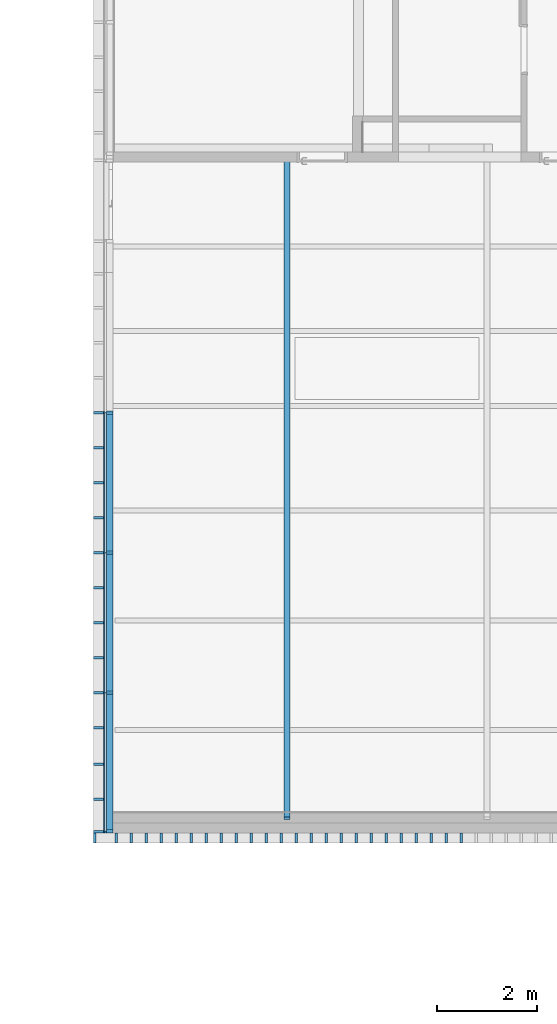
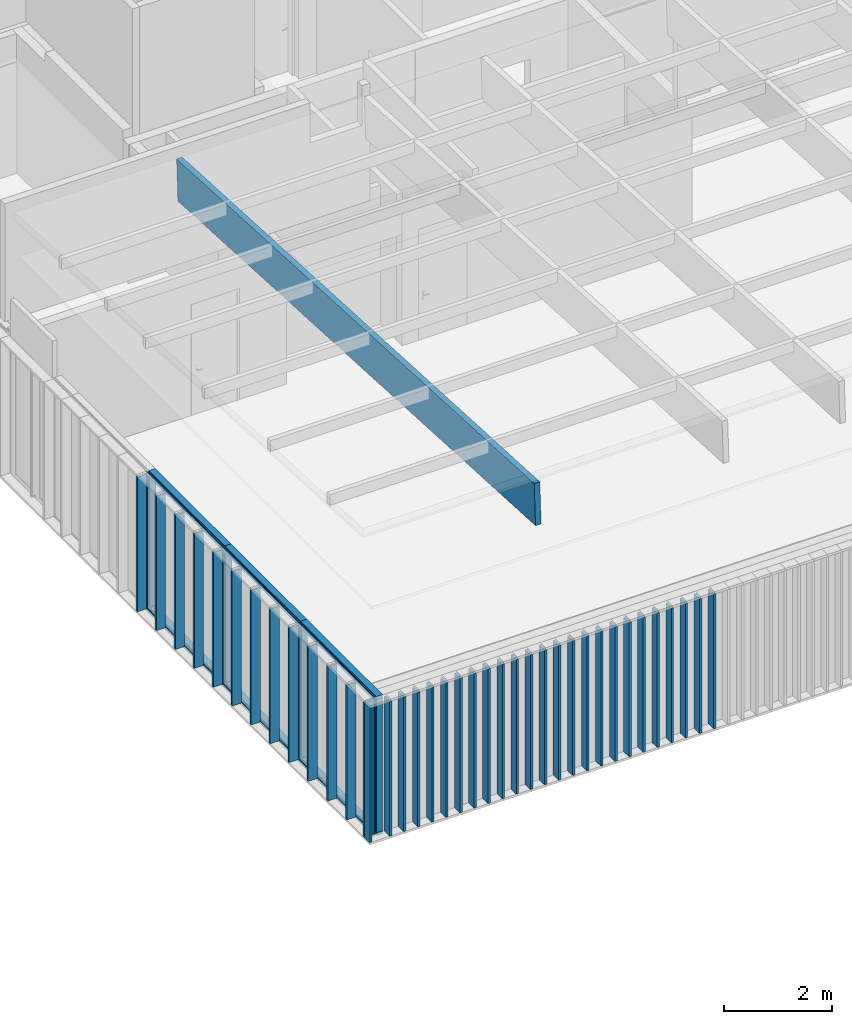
# One storey, part 3 of 240: 48 members, 1 beam, 3 elements without a shape of their own.
"""IFC2X3 building model written with IfcOpenShell, lengths in centimetres."""

from ifc_helpers import new_model, entity, si_unit, converted_unit, derived_unit, direction, frame, frame_2d, origin, origin_2d_with_axis, place, context, subcontext, project, spatial, polyline, rectangle, outline, extrude, source, transform, mapped, material, type_object, type_shapes, element, aggregate, save


model = new_model("IFC2X3")

# Units and contexts
model_context = context("Model", 3, precision=0.001, world=origin(), true_north=direction((6.12303176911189e-17, 1.0)))
body_context = subcontext(model_context, "Body", "Model", "MODEL_VIEW")
ifc_project = project(units=[si_unit("LENGTHUNIT", "METRE", prefix="CENTI"), si_unit("AREAUNIT", "SQUARE_METRE"), si_unit("VOLUMEUNIT", "CUBIC_METRE"), converted_unit("PLANEANGLEUNIT", "DEGREE", entity("IfcRatioMeasure", 0.0174532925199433), si_unit("PLANEANGLEUNIT", "RADIAN"), dimensions=[0, 0, 0, 0, 0, 0, 0]), si_unit("MASSUNIT", "GRAM", prefix="KILO"), derived_unit("MASSDENSITYUNIT", [(si_unit("MASSUNIT", "GRAM", prefix="KILO"), 1), (si_unit("LENGTHUNIT", "METRE"), -3)]), si_unit("TIMEUNIT", "SECOND"), si_unit("FREQUENCYUNIT", "HERTZ"), si_unit("THERMODYNAMICTEMPERATUREUNIT", "DEGREE_CELSIUS"), derived_unit("THERMALTRANSMITTANCEUNIT", [(si_unit("MASSUNIT", "GRAM", prefix="KILO"), 1), (si_unit("THERMODYNAMICTEMPERATUREUNIT", "KELVIN"), -1), (si_unit("TIMEUNIT", "SECOND"), -3)]), derived_unit("VOLUMETRICFLOWRATEUNIT", [(si_unit("LENGTHUNIT", "METRE"), 3), (si_unit("TIMEUNIT", "SECOND"), -1)]), si_unit("ELECTRICCURRENTUNIT", "AMPERE"), si_unit("ELECTRICVOLTAGEUNIT", "VOLT"), si_unit("POWERUNIT", "WATT"), si_unit("FORCEUNIT", "NEWTON", prefix="KILO"), si_unit("ILLUMINANCEUNIT", "LUX"), si_unit("LUMINOUSFLUXUNIT", "LUMEN"), si_unit("LUMINOUSINTENSITYUNIT", "CANDELA"), derived_unit("USERDEFINED", [(si_unit("MASSUNIT", "GRAM", prefix="KILO"), -1), (si_unit("LENGTHUNIT", "METRE"), -2), (si_unit("TIMEUNIT", "SECOND"), 3), (si_unit("LUMINOUSFLUXUNIT", "LUMEN"), 1)]), derived_unit("LINEARVELOCITYUNIT", [(si_unit("LENGTHUNIT", "METRE"), 1), (si_unit("TIMEUNIT", "SECOND"), -1)]), si_unit("PRESSUREUNIT", "PASCAL"), derived_unit("USERDEFINED", [(si_unit("LENGTHUNIT", "METRE"), -2), (si_unit("MASSUNIT", "GRAM", prefix="KILO"), 1), (si_unit("TIMEUNIT", "SECOND"), -2)])], contexts=[model_context])

# Site, building, storey
site_placement = place(None, frame((-2781.94577612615, 7442.24238424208, 0.0)))
site = spatial("IfcSite", under=ifc_project, at=site_placement, Name="Default", CompositionType="ELEMENT")
building_placement = place(site_placement, origin())
building = spatial("IfcBuilding", under=site, at=building_placement, CompositionType="ELEMENT")
storey_placement = place(building_placement, origin())
storey = spatial("IfcBuildingStorey", under=building, at=storey_placement, Name="N00 - COO", CompositionType="ELEMENT", Elevation=0.0)

# Curtain wall, members
curtain_wall_type_1 = type_object("IfcCurtainWallType", Name="Mur-rideau:07 - mur rideau trame 280 cm", PredefinedType="NOTDEFINED")
curtain_wall_1_placement = place(building_placement, origin())
curtain_wall_1 = element("IfcCurtainWall", 1, at=curtain_wall_1_placement, inside=storey, type_object=curtain_wall_type_1, Name="Mur-rideau:07 - mur rideau trame 280 cm", ObjectType="Mur-rideau:07 - mur rideau trame 280 cm")
ifc_material_1 = material(Name="Aluminium")
member_type_1 = type_object("IfcMemberType", Name="150 x 25mm Détails", PredefinedType="MEMBER")
shared_shape_1 = source(origin(), body_context, "Body", "SweptSolid", [
    extrude(outline(polyline([(-13.3333333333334, -3.24999999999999), (0.166666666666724, -3.24999999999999), (0.166666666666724, -0.868749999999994), (3.66666666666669, -0.868749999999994), (3.66666666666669, -3.25), (5.6666666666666, -3.25), (5.6666666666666, 3.24999999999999), (3.66666666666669, 3.24999999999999), (3.66666666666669, 0.86874999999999), (0.166666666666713, 0.86874999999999), (0.166666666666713, 3.25000000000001), (-13.3333333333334, 3.25000000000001), (-13.3333333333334, -3.24999999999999)])), frame((-3.24999999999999, 1.96666666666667, -300.0), z_axis=(0.0, 0.0, 1.0), x_axis=(0.0, -1.0, 0.0)), (0.0, 0.0, 1.0), 300.000000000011),
])
type_shapes(member_type_1, [shared_shape_1])
member_1_placement = place(building_placement, frame((-11860.6505746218, -5566.50173441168, 306.500000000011), z_axis=(0.0, 0.0, 1.0), x_axis=(0.0, -1.0, 0.0)))
member_1 = element("IfcMember", 2, at=member_1_placement, type_object=member_type_1, material=ifc_material_1, Name="Meneau rectangulaire:150 x 25mm Détails", ObjectType="Meneau rectangulaire:150 x 25mm Détails", context=body_context, shape_type="MappedRepresentation", body=[
    mapped(shared_shape_1, transform((0.0, 0.0, 0.0), scale=1.0)),
])
member_type_2 = type_object("IfcMemberType", Name="150 x 25mm Détails", PredefinedType="MEMBER")
shared_shape_2 = source(origin(), body_context, "Body", "SweptSolid", [
    extrude(outline(polyline([(-13.3333333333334, -3.25000000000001), (0.166666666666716, -3.25000000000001), (0.166666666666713, -0.86874999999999), (3.66666666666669, -0.86874999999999), (3.66666666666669, -3.24999999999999), (5.66666666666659, -3.24999999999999), (5.66666666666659, 3.25), (3.66666666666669, 3.25), (3.66666666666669, 0.868749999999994), (0.166666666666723, 0.868749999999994), (0.166666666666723, 3.25000000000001), (-13.3333333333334, 3.24999999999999), (-13.3333333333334, -3.25000000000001)])), frame((0.0, 1.96666666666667, -300.0), z_axis=(0.0, 0.0, 1.0), x_axis=(0.0, -1.0, 0.0)), (0.0, 0.0, 1.0), 300.000000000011),
])
type_shapes(member_type_2, [shared_shape_2])
member_2_placement = place(building_placement, frame((-11860.6505746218, -5286.5017343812, 6.49999999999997), z_axis=(0.0, 0.0, -1.0), x_axis=(0.0, 1.0, 0.0)))
member_2 = element("IfcMember", 3, at=member_2_placement, type_object=member_type_2, material=ifc_material_1, Name="Meneau rectangulaire:150 x 25mm Détails", ObjectType="Meneau rectangulaire:150 x 25mm Détails", context=body_context, shape_type="MappedRepresentation", body=[
    mapped(shared_shape_2, transform((0.0, 0.0, 0.0), scale=1.0)),
])
member_3_placement = place(building_placement, frame((-11860.6505746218, -5006.5017343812, 6.49999999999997), z_axis=(0.0, 0.0, -1.0), x_axis=(0.0, 1.0, 0.0)))
member_3 = element("IfcMember", 4, at=member_3_placement, type_object=member_type_2, material=ifc_material_1, Name="Meneau rectangulaire:150 x 25mm Détails", ObjectType="Meneau rectangulaire:150 x 25mm Détails", context=body_context, shape_type="MappedRepresentation", body=[
    mapped(shared_shape_2, transform((0.0, 0.0, 0.0), scale=1.0)),
])
member_4_placement = place(building_placement, frame((-11860.6505746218, -4726.5017343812, 6.49999999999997), z_axis=(0.0, 0.0, -1.0), x_axis=(0.0, 1.0, 0.0)))
member_4 = element("IfcMember", 5, at=member_4_placement, type_object=member_type_2, material=ifc_material_1, Name="Meneau rectangulaire:150 x 25mm Détails", ObjectType="Meneau rectangulaire:150 x 25mm Détails", context=body_context, shape_type="MappedRepresentation", body=[
    mapped(shared_shape_2, transform((0.0, 0.0, 0.0), scale=1.0)),
])

curtain_wall_type_2 = type_object("IfcCurtainWallType", Name="Mur-rideau:Epines - 200x50mm", PredefinedType="NOTDEFINED")
curtain_wall_2_placement = place(building_placement, origin())
curtain_wall_2 = element("IfcCurtainWall", 6, at=curtain_wall_2_placement, inside=storey, type_object=curtain_wall_type_2, Name="Mur-rideau:Epines - 200x50mm", ObjectType="Mur-rideau:Epines - 200x50mm")
member_type_3 = type_object("IfcMemberType", Name="200x50 mm", PredefinedType="MEMBER")
shared_shape_3 = source(origin(), body_context, "Body", "SweptSolid", [
    extrude(rectangle(XDim=20.0, YDim=5.0, at=origin_2d_with_axis()), frame((0.0, 0.0, -303.0), z_axis=(0.0, 0.0, 1.0), x_axis=(0.0, -1.0, 0.0)), (0.0, 0.0, 1.0), 303.000000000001),
])
type_shapes(member_type_3, [shared_shape_3])
member_5_placement = place(building_placement, frame((-11749.8167461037, -5576.50173441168, 5.0), z_axis=(0.0, 0.0, -1.0), x_axis=(1.0, 0.0, 0.0)))
member_5 = element("IfcMember", 7, at=member_5_placement, type_object=member_type_3, material=ifc_material_1, Name="Meneau rectangulaire:200x50 mm", ObjectType="Meneau rectangulaire:200x50 mm", context=body_context, shape_type="MappedRepresentation", body=[
    mapped(shared_shape_3, transform((0.0, 0.0, 0.0), scale=1.0)),
])
member_6_placement = place(building_placement, frame((-11719.8167461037, -5576.50173441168, 5.0), z_axis=(0.0, 0.0, -1.0), x_axis=(1.0, 0.0, 0.0)))
member_6 = element("IfcMember", 8, at=member_6_placement, type_object=member_type_3, material=ifc_material_1, Name="Meneau rectangulaire:200x50 mm", ObjectType="Meneau rectangulaire:200x50 mm", context=body_context, shape_type="MappedRepresentation", body=[
    mapped(shared_shape_3, transform((0.0, 0.0, 0.0), scale=1.0)),
])
member_7_placement = place(building_placement, frame((-11689.8167461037, -5576.50173441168, 5.0), z_axis=(0.0, 0.0, -1.0), x_axis=(1.0, 0.0, 0.0)))
member_7 = element("IfcMember", 9, at=member_7_placement, type_object=member_type_3, material=ifc_material_1, Name="Meneau rectangulaire:200x50 mm", ObjectType="Meneau rectangulaire:200x50 mm", context=body_context, shape_type="MappedRepresentation", body=[
    mapped(shared_shape_3, transform((0.0, 0.0, 0.0), scale=1.0)),
])
member_8_placement = place(building_placement, frame((-11659.8167461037, -5576.50173441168, 5.0), z_axis=(0.0, 0.0, -1.0), x_axis=(1.0, 0.0, 0.0)))
member_8 = element("IfcMember", 10, at=member_8_placement, type_object=member_type_3, material=ifc_material_1, Name="Meneau rectangulaire:200x50 mm", ObjectType="Meneau rectangulaire:200x50 mm", context=body_context, shape_type="MappedRepresentation", body=[
    mapped(shared_shape_3, transform((0.0, 0.0, 0.0), scale=1.0)),
])
member_9_placement = place(building_placement, frame((-11629.8167461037, -5576.50173441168, 5.0), z_axis=(0.0, 0.0, -1.0), x_axis=(1.0, 0.0, 0.0)))
member_9 = element("IfcMember", 11, at=member_9_placement, type_object=member_type_3, material=ifc_material_1, Name="Meneau rectangulaire:200x50 mm", ObjectType="Meneau rectangulaire:200x50 mm", context=body_context, shape_type="MappedRepresentation", body=[
    mapped(shared_shape_3, transform((0.0, 0.0, 0.0), scale=1.0)),
])
member_10_placement = place(building_placement, frame((-11599.8167461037, -5576.50173441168, 5.0), z_axis=(0.0, 0.0, -1.0), x_axis=(1.0, 0.0, 0.0)))
member_10 = element("IfcMember", 12, at=member_10_placement, type_object=member_type_3, material=ifc_material_1, Name="Meneau rectangulaire:200x50 mm", ObjectType="Meneau rectangulaire:200x50 mm", context=body_context, shape_type="MappedRepresentation", body=[
    mapped(shared_shape_3, transform((0.0, 0.0, 0.0), scale=1.0)),
])
member_11_placement = place(building_placement, frame((-11569.8167461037, -5576.50173441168, 5.0), z_axis=(0.0, 0.0, -1.0), x_axis=(1.0, 0.0, 0.0)))
member_11 = element("IfcMember", 13, at=member_11_placement, type_object=member_type_3, material=ifc_material_1, Name="Meneau rectangulaire:200x50 mm", ObjectType="Meneau rectangulaire:200x50 mm", context=body_context, shape_type="MappedRepresentation", body=[
    mapped(shared_shape_3, transform((0.0, 0.0, 0.0), scale=1.0)),
])
member_12_placement = place(building_placement, frame((-11539.8167461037, -5576.50173441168, 5.0), z_axis=(0.0, 0.0, -1.0), x_axis=(1.0, 0.0, 0.0)))
member_12 = element("IfcMember", 14, at=member_12_placement, type_object=member_type_3, material=ifc_material_1, Name="Meneau rectangulaire:200x50 mm", ObjectType="Meneau rectangulaire:200x50 mm", context=body_context, shape_type="MappedRepresentation", body=[
    mapped(shared_shape_3, transform((0.0, 0.0, 0.0), scale=1.0)),
])
member_13_placement = place(building_placement, frame((-11509.8167461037, -5576.50173441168, 5.0), z_axis=(0.0, 0.0, -1.0), x_axis=(1.0, 0.0, 0.0)))
member_13 = element("IfcMember", 15, at=member_13_placement, type_object=member_type_3, material=ifc_material_1, Name="Meneau rectangulaire:200x50 mm", ObjectType="Meneau rectangulaire:200x50 mm", context=body_context, shape_type="MappedRepresentation", body=[
    mapped(shared_shape_3, transform((0.0, 0.0, 0.0), scale=1.0)),
])
member_14_placement = place(building_placement, frame((-11479.8167461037, -5576.50173441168, 5.0), z_axis=(0.0, 0.0, -1.0), x_axis=(1.0, 0.0, 0.0)))
member_14 = element("IfcMember", 16, at=member_14_placement, type_object=member_type_3, material=ifc_material_1, Name="Meneau rectangulaire:200x50 mm", ObjectType="Meneau rectangulaire:200x50 mm", context=body_context, shape_type="MappedRepresentation", body=[
    mapped(shared_shape_3, transform((0.0, 0.0, 0.0), scale=1.0)),
])
member_15_placement = place(building_placement, frame((-11449.8167461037, -5576.50173441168, 5.0), z_axis=(0.0, 0.0, -1.0), x_axis=(1.0, 0.0, 0.0)))
member_15 = element("IfcMember", 17, at=member_15_placement, type_object=member_type_3, material=ifc_material_1, Name="Meneau rectangulaire:200x50 mm", ObjectType="Meneau rectangulaire:200x50 mm", context=body_context, shape_type="MappedRepresentation", body=[
    mapped(shared_shape_3, transform((0.0, 0.0, 0.0), scale=1.0)),
])
member_16_placement = place(building_placement, frame((-11419.8167461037, -5576.50173441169, 5.0), z_axis=(0.0, 0.0, -1.0), x_axis=(1.0, 0.0, 0.0)))
member_16 = element("IfcMember", 18, at=member_16_placement, type_object=member_type_3, material=ifc_material_1, Name="Meneau rectangulaire:200x50 mm", ObjectType="Meneau rectangulaire:200x50 mm", context=body_context, shape_type="MappedRepresentation", body=[
    mapped(shared_shape_3, transform((0.0, 0.0, 0.0), scale=1.0)),
])
member_17_placement = place(building_placement, frame((-11359.8167461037, -5576.50173441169, 5.0), z_axis=(0.0, 0.0, -1.0), x_axis=(1.0, 0.0, 0.0)))
member_17 = element("IfcMember", 19, at=member_17_placement, type_object=member_type_3, material=ifc_material_1, Name="Meneau rectangulaire:200x50 mm", ObjectType="Meneau rectangulaire:200x50 mm", context=body_context, shape_type="MappedRepresentation", body=[
    mapped(shared_shape_3, transform((0.0, 0.0, 0.0), scale=1.0)),
])
member_18_placement = place(building_placement, frame((-11389.8167461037, -5576.50173441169, 5.0), z_axis=(0.0, 0.0, -1.0), x_axis=(1.0, 0.0, 0.0)))
member_18 = element("IfcMember", 20, at=member_18_placement, type_object=member_type_3, material=ifc_material_1, Name="Meneau rectangulaire:200x50 mm", ObjectType="Meneau rectangulaire:200x50 mm", context=body_context, shape_type="MappedRepresentation", body=[
    mapped(shared_shape_3, transform((0.0, 0.0, 0.0), scale=1.0)),
])
member_19_placement = place(building_placement, frame((-11329.8167461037, -5576.50173441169, 5.0), z_axis=(0.0, 0.0, -1.0), x_axis=(1.0, 0.0, 0.0)))
member_19 = element("IfcMember", 21, at=member_19_placement, type_object=member_type_3, material=ifc_material_1, Name="Meneau rectangulaire:200x50 mm", ObjectType="Meneau rectangulaire:200x50 mm", context=body_context, shape_type="MappedRepresentation", body=[
    mapped(shared_shape_3, transform((0.0, 0.0, 0.0), scale=1.0)),
])
member_20_placement = place(building_placement, frame((-11269.8167461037, -5576.50173441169, 5.0), z_axis=(0.0, 0.0, -1.0), x_axis=(1.0, 0.0, 0.0)))
member_20 = element("IfcMember", 22, at=member_20_placement, type_object=member_type_3, material=ifc_material_1, Name="Meneau rectangulaire:200x50 mm", ObjectType="Meneau rectangulaire:200x50 mm", context=body_context, shape_type="MappedRepresentation", body=[
    mapped(shared_shape_3, transform((0.0, 0.0, 0.0), scale=1.0)),
])
member_21_placement = place(building_placement, frame((-11239.8167461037, -5576.50173441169, 5.0), z_axis=(0.0, 0.0, -1.0), x_axis=(1.0, 0.0, 0.0)))
member_21 = element("IfcMember", 23, at=member_21_placement, type_object=member_type_3, material=ifc_material_1, Name="Meneau rectangulaire:200x50 mm", ObjectType="Meneau rectangulaire:200x50 mm", context=body_context, shape_type="MappedRepresentation", body=[
    mapped(shared_shape_3, transform((0.0, 0.0, 0.0), scale=1.0)),
])
member_22_placement = place(building_placement, frame((-11299.8167461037, -5576.50173441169, 5.0), z_axis=(0.0, 0.0, -1.0), x_axis=(1.0, 0.0, 0.0)))
member_22 = element("IfcMember", 24, at=member_22_placement, type_object=member_type_3, material=ifc_material_1, Name="Meneau rectangulaire:200x50 mm", ObjectType="Meneau rectangulaire:200x50 mm", context=body_context, shape_type="MappedRepresentation", body=[
    mapped(shared_shape_3, transform((0.0, 0.0, 0.0), scale=1.0)),
])
member_23_placement = place(building_placement, frame((-11209.8167461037, -5576.50173441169, 5.0), z_axis=(0.0, 0.0, -1.0), x_axis=(1.0, 0.0, 0.0)))
member_23 = element("IfcMember", 25, at=member_23_placement, type_object=member_type_3, material=ifc_material_1, Name="Meneau rectangulaire:200x50 mm", ObjectType="Meneau rectangulaire:200x50 mm", context=body_context, shape_type="MappedRepresentation", body=[
    mapped(shared_shape_3, transform((0.0, 0.0, 0.0), scale=1.0)),
])
member_24_placement = place(building_placement, frame((-11179.8167461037, -5576.50173441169, 5.0), z_axis=(0.0, 0.0, -1.0), x_axis=(1.0, 0.0, 0.0)))
member_24 = element("IfcMember", 26, at=member_24_placement, type_object=member_type_3, material=ifc_material_1, Name="Meneau rectangulaire:200x50 mm", ObjectType="Meneau rectangulaire:200x50 mm", context=body_context, shape_type="MappedRepresentation", body=[
    mapped(shared_shape_3, transform((0.0, 0.0, 0.0), scale=1.0)),
])
member_25_placement = place(building_placement, frame((-11149.8167461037, -5576.50173441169, 5.0), z_axis=(0.0, 0.0, -1.0), x_axis=(1.0, 0.0, 0.0)))
member_25 = element("IfcMember", 27, at=member_25_placement, type_object=member_type_3, material=ifc_material_1, Name="Meneau rectangulaire:200x50 mm", ObjectType="Meneau rectangulaire:200x50 mm", context=body_context, shape_type="MappedRepresentation", body=[
    mapped(shared_shape_3, transform((0.0, 0.0, 0.0), scale=1.0)),
])
member_26_placement = place(building_placement, frame((-11779.8167461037, -5576.50173441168, 5.0), z_axis=(0.0, 0.0, -1.0), x_axis=(1.0, 0.0, 0.0)))
member_26 = element("IfcMember", 28, at=member_26_placement, type_object=member_type_3, material=ifc_material_1, Name="Meneau rectangulaire:200x50 mm", ObjectType="Meneau rectangulaire:200x50 mm", context=body_context, shape_type="MappedRepresentation", body=[
    mapped(shared_shape_3, transform((0.0, 0.0, 0.0), scale=1.0)),
])
member_27_placement = place(building_placement, frame((-11809.8167461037, -5576.50173441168, 5.0), z_axis=(0.0, 0.0, -1.0), x_axis=(1.0, 0.0, 0.0)))
member_27 = element("IfcMember", 29, at=member_27_placement, type_object=member_type_3, material=ifc_material_1, Name="Meneau rectangulaire:200x50 mm", ObjectType="Meneau rectangulaire:200x50 mm", context=body_context, shape_type="MappedRepresentation", body=[
    mapped(shared_shape_3, transform((0.0, 0.0, 0.0), scale=1.0)),
])
member_28_placement = place(building_placement, frame((-11839.8167461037, -5576.50173441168, 5.0), z_axis=(0.0, 0.0, -1.0), x_axis=(1.0, 0.0, 0.0)))
member_28 = element("IfcMember", 30, at=member_28_placement, type_object=member_type_3, material=ifc_material_1, Name="Meneau rectangulaire:200x50 mm", ObjectType="Meneau rectangulaire:200x50 mm", context=body_context, shape_type="MappedRepresentation", body=[
    mapped(shared_shape_3, transform((0.0, 0.0, 0.0), scale=1.0)),
])

curtain_wall_3_placement = place(building_placement, origin())
curtain_wall_3 = element("IfcCurtainWall", 31, at=curtain_wall_3_placement, inside=storey, type_object=curtain_wall_type_2, Name="Mur-rideau:Epines - 200x50mm", ObjectType="Mur-rideau:Epines - 200x50mm")
member_29_placement = place(building_placement, frame((-11874.3505746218, -5499.00173441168, 5.0), z_axis=(0.0, 0.0, -1.0), x_axis=(0.0, 1.0, 0.0)))
member_29 = element("IfcMember", 32, at=member_29_placement, type_object=member_type_3, material=ifc_material_1, Name="Meneau rectangulaire:200x50 mm", ObjectType="Meneau rectangulaire:200x50 mm", context=body_context, shape_type="MappedRepresentation", body=[
    mapped(shared_shape_3, transform((0.0, 0.0, 0.0), scale=1.0)),
])
member_30_placement = place(building_placement, frame((-11874.3505746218, -5429.00173441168, 5.0), z_axis=(0.0, 0.0, -1.0), x_axis=(0.0, 1.0, 0.0)))
member_30 = element("IfcMember", 33, at=member_30_placement, type_object=member_type_3, material=ifc_material_1, Name="Meneau rectangulaire:200x50 mm", ObjectType="Meneau rectangulaire:200x50 mm", context=body_context, shape_type="MappedRepresentation", body=[
    mapped(shared_shape_3, transform((0.0, 0.0, 0.0), scale=1.0)),
])
member_31_placement = place(building_placement, frame((-11874.3505746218, -5356.5017343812, 5.0), z_axis=(0.0, 0.0, -1.0), x_axis=(0.0, 1.0, 0.0)))
member_31 = element("IfcMember", 34, at=member_31_placement, type_object=member_type_3, material=ifc_material_1, Name="Meneau rectangulaire:200x50 mm", ObjectType="Meneau rectangulaire:200x50 mm", context=body_context, shape_type="MappedRepresentation", body=[
    mapped(shared_shape_3, transform((0.0, 0.0, 0.0), scale=1.0)),
])
member_32_placement = place(building_placement, frame((-11874.3505746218, -5286.5017343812, 5.0), z_axis=(0.0, 0.0, -1.0), x_axis=(0.0, 1.0, 0.0)))
member_32 = element("IfcMember", 35, at=member_32_placement, type_object=member_type_3, material=ifc_material_1, Name="Meneau rectangulaire:200x50 mm", ObjectType="Meneau rectangulaire:200x50 mm", context=body_context, shape_type="MappedRepresentation", body=[
    mapped(shared_shape_3, transform((0.0, 0.0, 0.0), scale=1.0)),
])
member_33_placement = place(building_placement, frame((-11874.3505746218, -5216.5017343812, 5.0), z_axis=(0.0, 0.0, -1.0), x_axis=(0.0, 1.0, 0.0)))
member_33 = element("IfcMember", 36, at=member_33_placement, type_object=member_type_3, material=ifc_material_1, Name="Meneau rectangulaire:200x50 mm", ObjectType="Meneau rectangulaire:200x50 mm", context=body_context, shape_type="MappedRepresentation", body=[
    mapped(shared_shape_3, transform((0.0, 0.0, 0.0), scale=1.0)),
])
member_34_placement = place(building_placement, frame((-11874.3505746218, -5146.5017343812, 5.0), z_axis=(0.0, 0.0, -1.0), x_axis=(0.0, 1.0, 0.0)))
member_34 = element("IfcMember", 37, at=member_34_placement, type_object=member_type_3, material=ifc_material_1, Name="Meneau rectangulaire:200x50 mm", ObjectType="Meneau rectangulaire:200x50 mm", context=body_context, shape_type="MappedRepresentation", body=[
    mapped(shared_shape_3, transform((0.0, 0.0, 0.0), scale=1.0)),
])
member_35_placement = place(building_placement, frame((-11874.3505746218, -5076.5017343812, 5.0), z_axis=(0.0, 0.0, -1.0), x_axis=(0.0, 1.0, 0.0)))
member_35 = element("IfcMember", 38, at=member_35_placement, type_object=member_type_3, material=ifc_material_1, Name="Meneau rectangulaire:200x50 mm", ObjectType="Meneau rectangulaire:200x50 mm", context=body_context, shape_type="MappedRepresentation", body=[
    mapped(shared_shape_3, transform((0.0, 0.0, 0.0), scale=1.0)),
])
member_36_placement = place(building_placement, frame((-11874.3505746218, -5006.5017343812, 5.0), z_axis=(0.0, 0.0, -1.0), x_axis=(0.0, 1.0, 0.0)))
member_36 = element("IfcMember", 39, at=member_36_placement, type_object=member_type_3, material=ifc_material_1, Name="Meneau rectangulaire:200x50 mm", ObjectType="Meneau rectangulaire:200x50 mm", context=body_context, shape_type="MappedRepresentation", body=[
    mapped(shared_shape_3, transform((0.0, 0.0, 0.0), scale=1.0)),
])
member_37_placement = place(building_placement, frame((-11874.3505746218, -4936.5017343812, 5.0), z_axis=(0.0, 0.0, -1.0), x_axis=(0.0, 1.0, 0.0)))
member_37 = element("IfcMember", 40, at=member_37_placement, type_object=member_type_3, material=ifc_material_1, Name="Meneau rectangulaire:200x50 mm", ObjectType="Meneau rectangulaire:200x50 mm", context=body_context, shape_type="MappedRepresentation", body=[
    mapped(shared_shape_3, transform((0.0, 0.0, 0.0), scale=1.0)),
])
member_38_placement = place(building_placement, frame((-11874.3505746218, -4866.5017343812, 5.0), z_axis=(0.0, 0.0, -1.0), x_axis=(0.0, 1.0, 0.0)))
member_38 = element("IfcMember", 41, at=member_38_placement, type_object=member_type_3, material=ifc_material_1, Name="Meneau rectangulaire:200x50 mm", ObjectType="Meneau rectangulaire:200x50 mm", context=body_context, shape_type="MappedRepresentation", body=[
    mapped(shared_shape_3, transform((0.0, 0.0, 0.0), scale=1.0)),
])
member_39_placement = place(building_placement, frame((-11874.3505746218, -4796.5017343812, 5.0), z_axis=(0.0, 0.0, -1.0), x_axis=(0.0, 1.0, 0.0)))
member_39 = element("IfcMember", 42, at=member_39_placement, type_object=member_type_3, material=ifc_material_1, Name="Meneau rectangulaire:200x50 mm", ObjectType="Meneau rectangulaire:200x50 mm", context=body_context, shape_type="MappedRepresentation", body=[
    mapped(shared_shape_3, transform((0.0, 0.0, 0.0), scale=1.0)),
])
member_40_placement = place(building_placement, frame((-11874.3505746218, -4726.5017343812, 5.0), z_axis=(0.0, 0.0, -1.0), x_axis=(0.0, 1.0, 0.0)))
member_40 = element("IfcMember", 43, at=member_40_placement, type_object=member_type_3, material=ifc_material_1, Name="Meneau rectangulaire:200x50 mm", ObjectType="Meneau rectangulaire:200x50 mm", context=body_context, shape_type="MappedRepresentation", body=[
    mapped(shared_shape_3, transform((0.0, 0.0, 0.0), scale=1.0)),
])

# Member
member_type_4 = type_object("IfcMemberType", Name="200x50 mm", PredefinedType="MEMBER")
shared_shape_4 = source(origin(), body_context, "Body", "SweptSolid", [
    extrude(rectangle(XDim=20.0, YDim=5.0, at=origin_2d_with_axis()), frame((-2.5, 0.0, -303.0), z_axis=(0.0, 0.0, 1.0), x_axis=(0.0, -1.0, 0.0)), (0.0, 0.0, 1.0), 303.000000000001),
])
type_shapes(member_type_4, [shared_shape_4])
member_41_placement = place(building_placement, frame((-11884.3505746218, -5576.50173441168, 308.0), z_axis=(0.0, 0.0, 1.0), x_axis=(-1.0, 0.0, 0.0)))
member_41 = element("IfcMember", 44, at=member_41_placement, type_object=member_type_4, material=ifc_material_1, Name="Meneau rectangulaire:200x50 mm", ObjectType="Meneau rectangulaire:200x50 mm", context=body_context, shape_type="MappedRepresentation", body=[
    mapped(shared_shape_4, transform((0.0, 0.0, 0.0), scale=1.0)),
])

aggregate(curtain_wall_2, [member_5, member_6, member_41, member_7, member_8, member_9, member_10, member_11, member_12, member_13, member_14, member_15, member_16, member_17, member_18, member_19, member_20, member_21, member_22, member_23, member_24, member_25, member_26, member_27, member_28])

member_42_placement = place(building_placement, frame((-11874.3505746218, -5566.50173441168, 308.0), z_axis=(0.0, 0.0, 1.0), x_axis=(0.0, -1.0, 0.0)))
member_42 = element("IfcMember", 45, at=member_42_placement, type_object=member_type_4, material=ifc_material_1, Name="Meneau rectangulaire:200x50 mm", ObjectType="Meneau rectangulaire:200x50 mm", context=body_context, shape_type="MappedRepresentation", body=[
    mapped(shared_shape_4, transform((0.0, 0.0, 0.0), scale=1.0)),
])

aggregate(curtain_wall_3, [member_42, member_29, member_30, member_31, member_32, member_33, member_34, member_35, member_36, member_37, member_38, member_39, member_40])

member_type_5 = type_object("IfcMemberType", Name="150 x 25mm Détails", PredefinedType="MEMBER")
shared_shape_5 = source(origin(), body_context, "Body", "SweptSolid", [
    extrude(outline(polyline([(-13.3333333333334, -3.24999999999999), (0.166666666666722, -3.24999999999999), (0.166666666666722, -0.868749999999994), (3.66666666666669, -0.868749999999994), (3.66666666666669, -3.25), (5.66666666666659, -3.25), (5.66666666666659, 3.24999999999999), (3.66666666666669, 3.24999999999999), (3.66666666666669, 0.86874999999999), (0.166666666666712, 0.86874999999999), (0.166666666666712, 3.25000000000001), (-13.3333333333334, 3.25000000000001), (-13.3333333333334, -3.24999999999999)])), frame((-3.24999999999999, 1.96666666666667, -280.0), z_axis=(0.0, 0.0, 1.0), x_axis=(0.0, -1.0, 0.0)), (0.0, 0.0, 1.0), 280.0),
])
type_shapes(member_type_5, [shared_shape_5])
member_43_placement = place(building_placement, frame((-11860.6505746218, -5286.5017343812, 0.0), z_axis=(0.0, -1.0, 0.0), x_axis=(0.0, 0.0, -1.0)))
member_43 = element("IfcMember", 46, at=member_43_placement, type_object=member_type_5, material=ifc_material_1, Name="Meneau rectangulaire:150 x 25mm Détails", ObjectType="Meneau rectangulaire:150 x 25mm Détails", context=body_context, shape_type="MappedRepresentation", body=[
    mapped(shared_shape_5, transform((0.0, 0.0, 0.0), scale=1.0)),
])

member_44_placement = place(building_placement, frame((-11860.6505746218, -5006.5017343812, 0.0), z_axis=(0.0, -1.0, 0.0), x_axis=(0.0, 0.0, -1.0)))
member_44 = element("IfcMember", 47, at=member_44_placement, type_object=member_type_5, material=ifc_material_1, Name="Meneau rectangulaire:150 x 25mm Détails", ObjectType="Meneau rectangulaire:150 x 25mm Détails", context=body_context, shape_type="MappedRepresentation", body=[
    mapped(shared_shape_5, transform((0.0, 0.0, 0.0), scale=1.0)),
])

member_type_6 = type_object("IfcMemberType", Name="150 x 25mm Détails", PredefinedType="MEMBER")
shared_shape_6 = source(origin(), body_context, "Body", "SweptSolid", [
    extrude(outline(polyline([(-13.3333333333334, -3.25000000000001), (0.166666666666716, -3.25000000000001), (0.166666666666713, -0.86874999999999), (3.66666666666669, -0.86874999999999), (3.66666666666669, -3.24999999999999), (5.66666666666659, -3.24999999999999), (5.66666666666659, 3.25), (3.66666666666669, 3.25), (3.66666666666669, 0.868749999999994), (0.166666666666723, 0.868749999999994), (0.166666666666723, 3.25000000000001), (-13.3333333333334, 3.24999999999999), (-13.3333333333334, -3.25000000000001)])), frame((-3.24999999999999, 1.96666666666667, -280.0), z_axis=(0.0, 0.0, 1.0), x_axis=(0.0, -1.0, 0.0)), (0.0, 0.0, 1.0), 280.0),
])
type_shapes(member_type_6, [shared_shape_6])
member_45_placement = place(building_placement, frame((-11860.6505746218, -5006.5017343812, 313.0), z_axis=(0.0, 1.0, 0.0), x_axis=(0.0, 0.0, 1.0)))
member_45 = element("IfcMember", 48, at=member_45_placement, type_object=member_type_6, material=ifc_material_1, Name="Meneau rectangulaire:150 x 25mm Détails", ObjectType="Meneau rectangulaire:150 x 25mm Détails", context=body_context, shape_type="MappedRepresentation", body=[
    mapped(shared_shape_6, transform((0.0, 0.0, 0.0), scale=1.0)),
])

member_46_placement = place(building_placement, frame((-11860.6505746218, -4726.5017343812, 313.0), z_axis=(0.0, 1.0, 0.0), x_axis=(0.0, 0.0, 1.0)))
member_46 = element("IfcMember", 49, at=member_46_placement, type_object=member_type_6, material=ifc_material_1, Name="Meneau rectangulaire:150 x 25mm Détails", ObjectType="Meneau rectangulaire:150 x 25mm Détails", context=body_context, shape_type="MappedRepresentation", body=[
    mapped(shared_shape_6, transform((0.0, 0.0, 0.0), scale=1.0)),
])

member_type_7 = type_object("IfcMemberType", Name="150 x 25mm Détails", PredefinedType="MEMBER")
shared_shape_7 = source(origin(), body_context, "Body", "SweptSolid", [
    extrude(outline(polyline([(-13.3333333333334, -3.25000000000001), (0.166666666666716, -3.25000000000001), (0.166666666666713, -0.86874999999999), (3.66666666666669, -0.86874999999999), (3.66666666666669, -3.24999999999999), (5.66666666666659, -3.24999999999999), (5.66666666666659, 3.25), (3.66666666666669, 3.25), (3.66666666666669, 0.868749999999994), (0.166666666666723, 0.868749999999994), (0.166666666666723, 3.25000000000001), (-13.3333333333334, 3.24999999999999), (-13.3333333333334, -3.25000000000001)])), frame((-3.24999999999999, 1.96666666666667, -280.0), z_axis=(0.0, 0.0, 1.0), x_axis=(0.0, -1.0, 0.0)), (0.0, 0.0, 1.0), 280.00000003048),
])
type_shapes(member_type_7, [shared_shape_7])
member_47_placement = place(building_placement, frame((-11860.6505746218, -5286.5017343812, 313.0), z_axis=(0.0, 1.0, 0.0), x_axis=(0.0, 0.0, 1.0)))
member_47 = element("IfcMember", 50, at=member_47_placement, type_object=member_type_7, material=ifc_material_1, Name="Meneau rectangulaire:150 x 25mm Détails", ObjectType="Meneau rectangulaire:150 x 25mm Détails", context=body_context, shape_type="MappedRepresentation", body=[
    mapped(shared_shape_7, transform((0.0, 0.0, 0.0), scale=1.0)),
])

member_type_8 = type_object("IfcMemberType", Name="150 x 25mm Détails", PredefinedType="MEMBER")
shared_shape_8 = source(origin(), body_context, "Body", "SweptSolid", [
    extrude(outline(polyline([(-13.3333333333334, -3.24999999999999), (0.166666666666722, -3.24999999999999), (0.166666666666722, -0.868749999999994), (3.66666666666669, -0.868749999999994), (3.66666666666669, -3.25), (5.66666666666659, -3.25), (5.66666666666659, 3.24999999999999), (3.66666666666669, 3.24999999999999), (3.66666666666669, 0.86874999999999), (0.166666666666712, 0.86874999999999), (0.166666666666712, 3.25000000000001), (-13.3333333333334, 3.25000000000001), (-13.3333333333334, -3.24999999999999)])), frame((-3.24999999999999, 1.96666666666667, -280.0), z_axis=(0.0, 0.0, 1.0), x_axis=(0.0, -1.0, 0.0)), (0.0, 0.0, 1.0), 280.00000003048),
])
type_shapes(member_type_8, [shared_shape_8])
member_48_placement = place(building_placement, frame((-11860.6505746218, -5566.50173441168, 0.0), z_axis=(0.0, -1.0, 0.0), x_axis=(0.0, 0.0, -1.0)))
member_48 = element("IfcMember", 51, at=member_48_placement, type_object=member_type_8, material=ifc_material_1, Name="Meneau rectangulaire:150 x 25mm Détails", ObjectType="Meneau rectangulaire:150 x 25mm Détails", context=body_context, shape_type="MappedRepresentation", body=[
    mapped(shared_shape_8, transform((0.0, 0.0, 0.0), scale=1.0)),
])

aggregate(curtain_wall_1, [member_47, member_45, member_46, member_48, member_43, member_44, member_1, member_2, member_3, member_4])

# Beam
ifc_material_2 = material(Name="Bois - Bois de construction de dimensions courantes")
beam_type = type_object("IfcBeamType", Name="SR-12x92", PredefinedType="BEAM")
beam_placement = place(storey_placement, frame((-11498.3505746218, -5534.73663533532, 649.406414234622), z_axis=(0.0, 0.0523359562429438, 0.998629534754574), x_axis=(0.0, 0.998629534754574, -0.0523359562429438)))
element("IfcBeam", 52, at=beam_placement, inside=storey, type_object=beam_type, material=ifc_material_2, Name="Poutre - Bois de construction de dimensions courantes:SR-12x92", ObjectType="Poutre - Bois de construction de dimensions courantes:SR-12x92", context=body_context, shape_type="SweptSolid", body=[
    extrude(rectangle(XDim=92.0000000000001, YDim=12.0000000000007, at=frame_2d((-5.32907051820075e-14, 0.0), x_axis=(1.0, 0.0))), frame((0.000730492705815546, 0.0, -46.0), z_axis=(1.0, 0.0, 0.0), x_axis=(0.0, 0.0, -1.0)), (0.0, 0.0, 1.0), 1321.0),
])

save(model, "model.ifc")
